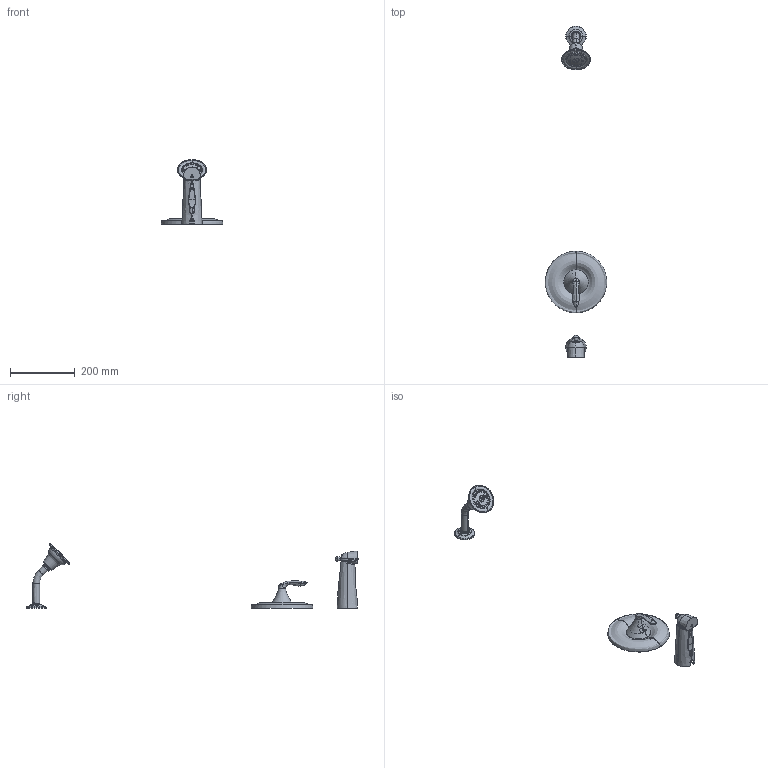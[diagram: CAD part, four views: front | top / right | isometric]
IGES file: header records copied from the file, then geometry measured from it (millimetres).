
Start section:  PTC IGES file: sku_t2133.igs
Global section: file name: sku_t2133.igs; native system: Pro/ENGINEER by Parametric Technology Corporation; preprocessor: 2006460; author: 9dutterb; organization: Unknown; date: 20071206.132225; units: inch
Bounding box: 191.1 x 1029.4 x 201.03 mm (x, y, z)
Surface area: 206389.4 mm2 (no closed solid volume)
Topology: 0 solids, 0 shells, 397 faces, 2337 edges, 2315 vertices
Faces by surface type: bspline 227, revolution 170
